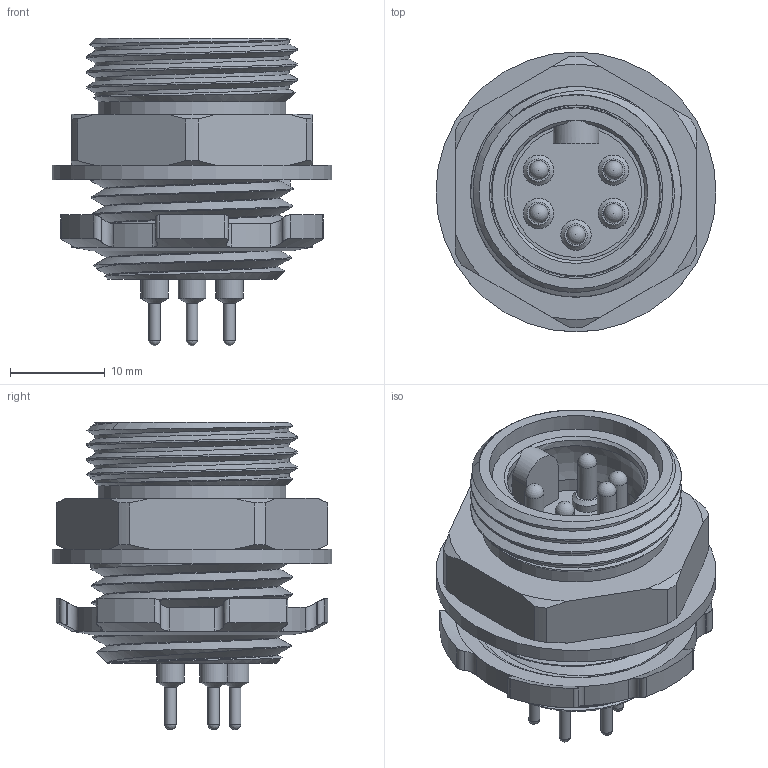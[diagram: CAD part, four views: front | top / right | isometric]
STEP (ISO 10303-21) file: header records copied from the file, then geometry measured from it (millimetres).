
FILE_DESCRIPTION (( 'STEP AP203' ), '1' );
FILE_NAME ('CM03A-R5P-D-1(R1).STEP', '2022-04-06T07:49:52', ( '' ), ( '' ), 'SwSTEP 2.0', 'SolidWorks 2018', '' );
FILE_SCHEMA (( 'CONFIG_CONTROL_DESIGN' ));
Length unit declared in the file: millimetre
Products named in the file (1): CM03A-R5P-D-1(R1)
Bounding box: 29.5 x 29.5 x 32.4 mm (x, y, z)
Volume: 9332.7 mm3; surface area: 6103 mm2
Topology: 1 solids, 1 shells, 182 faces, 469 edges, 296 vertices
Faces by surface type: cylinder 74, plane 44, cone 43, sphere 10, bspline 9, torus 2
Full cylindrical faces by diameter (mm): 1.2 x5, 2.01 x5, 2.9 x5, 3.2 x5, 17.7 x1, 18.3 x1, 19.8 x1, 29.5 x1
Entity records: 11022 total; most frequent: CARTESIAN_POINT 7188, ORIENTED_EDGE 760, DIRECTION 720, EDGE_CURVE 380, AXIS2_PLACEMENT_3D 311, VERTEX_POINT 263, EDGE_LOOP 243, FACE_OUTER_BOUND 205
